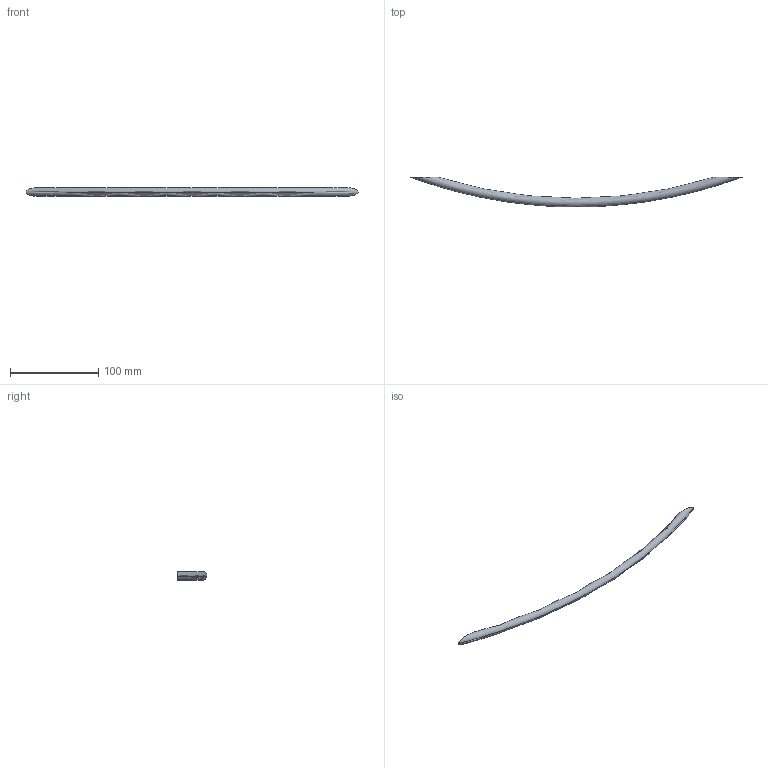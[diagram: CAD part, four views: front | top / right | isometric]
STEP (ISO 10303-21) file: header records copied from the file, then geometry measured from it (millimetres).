
FILE_DESCRIPTION( ( '' ), '1' );
FILE_NAME( 'D:/1.AUTOCAD EXPORT/Group 10/sheet_10_1/ 9070481.stp', '2013-10-21T12:42:24', ( '' ), ( '' ), ' ', ' ', ' ' );
FILE_SCHEMA( ( 'automotive_design' ) );
Length unit declared in the file: millimetre
Products named in the file (1): 1
Bounding box: 376 x 33.92 x 9.99 mm (x, y, z)
Volume: 27540.4 mm3; surface area: 11701 mm2
Topology: 1 solids, 1 shells, 10 faces, 18 edges, 12 vertices
Faces by surface type: cylinder 4, plane 4, torus 2
Entity records: 662 total; most frequent: CARTESIAN_POINT 205, DIRECTION 46, STYLED_ITEM 41, PRESENTATION_STYLE_ASSIGNMENT 41, COLOUR_RGB 41, ORIENTED_EDGE 36, AXIS2_PLACEMENT_3D 21, EDGE_CURVE 18
